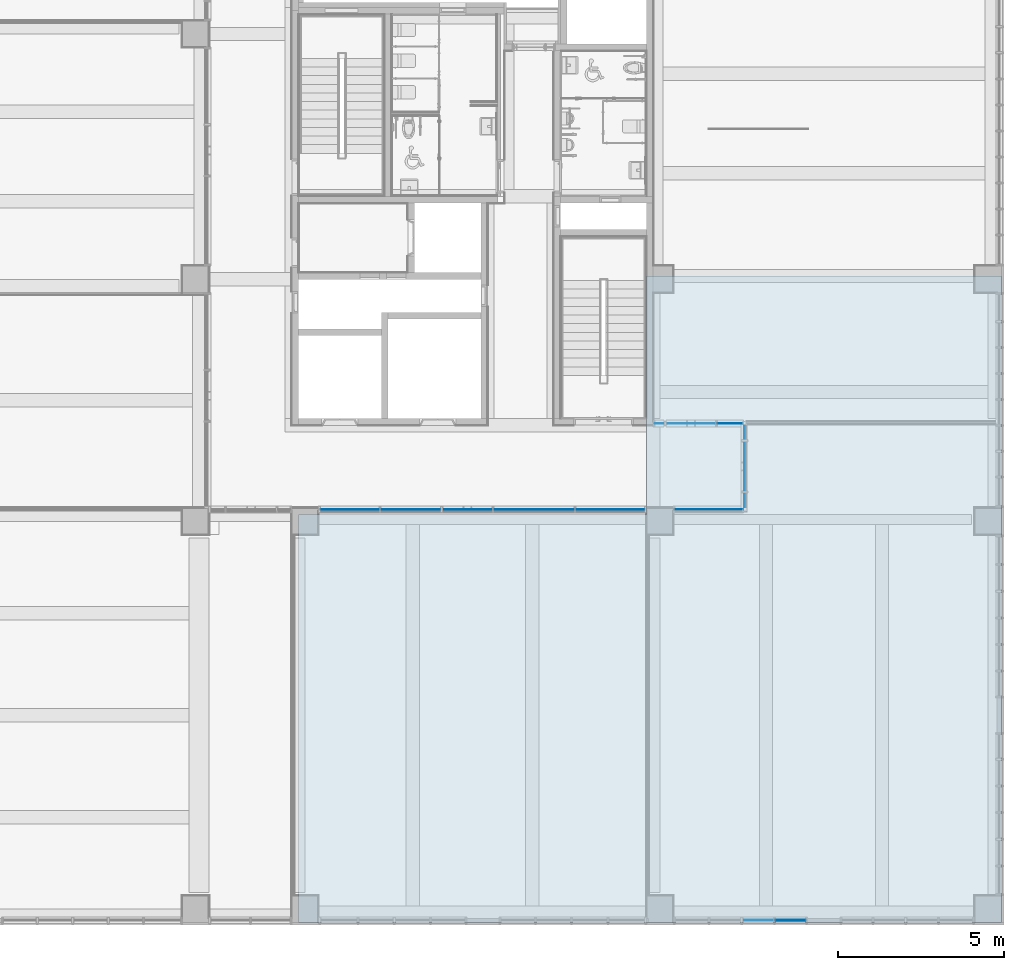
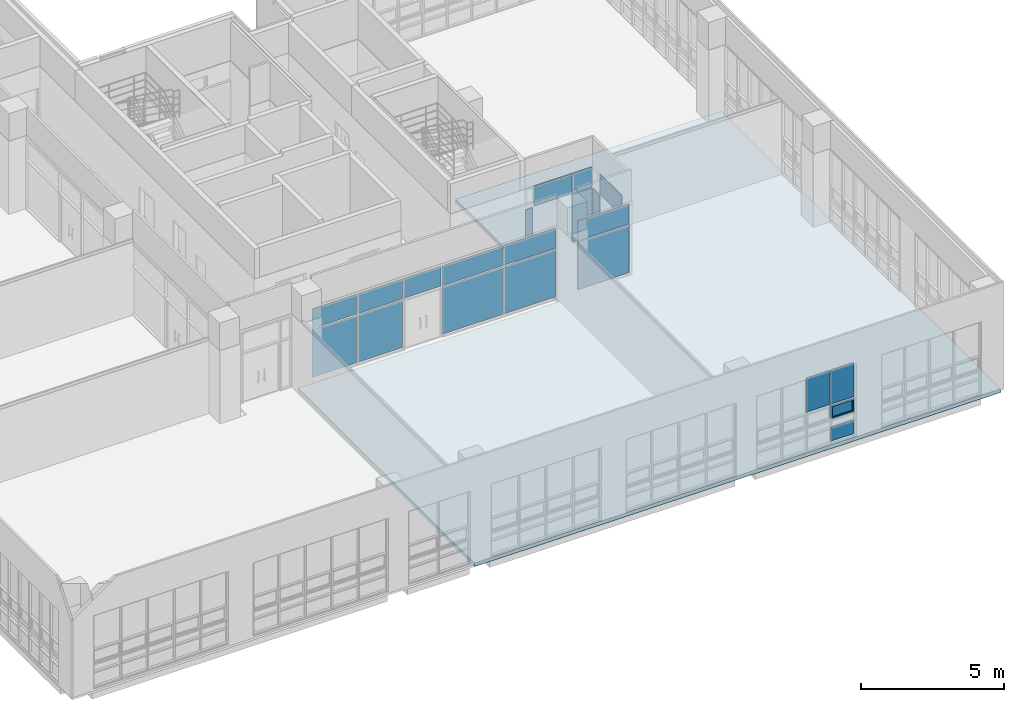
# One storey, part 33 of 74: 22 plates, 1 slab, 5 elements without a shape of their own.
"""IFC2X3 building model written with IfcOpenShell, lengths in millimetres."""

from ifc_helpers import new_model, entity, si_unit, converted_unit, derived_unit, direction, frame, origin, origin_2d_with_axis, place, context, subcontext, project, spatial, polyline, rectangle, outline, extrude, source, transform, mapped, material, material_list, layer, layer_set, layer_usage, type_object, type_shapes, element, aggregate, save


model = new_model("IFC2X3")

# Units and contexts
model_context = context("Model", 3, precision=0.01, world=origin(), true_north=direction((6.123031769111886e-17, 1.0)))
body_context = subcontext(model_context, "Body", "Model", "MODEL_VIEW")
ifc_project = project(units=[si_unit("LENGTHUNIT", "METRE", prefix="MILLI"), si_unit("AREAUNIT", "SQUARE_METRE"), si_unit("VOLUMEUNIT", "CUBIC_METRE"), converted_unit("PLANEANGLEUNIT", "DEGREE", entity("IfcRatioMeasure", 0.017453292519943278), si_unit("PLANEANGLEUNIT", "RADIAN"), dimensions=[0, 0, 0, 0, 0, 0, 0]), si_unit("MASSUNIT", "GRAM", prefix="KILO"), derived_unit("MASSDENSITYUNIT", [(si_unit("MASSUNIT", "GRAM", prefix="KILO"), 1), (si_unit("LENGTHUNIT", "METRE"), -3)]), derived_unit("MOMENTOFINERTIAUNIT", [(si_unit("LENGTHUNIT", "METRE"), 4)]), si_unit("TIMEUNIT", "SECOND"), si_unit("FREQUENCYUNIT", "HERTZ"), si_unit("THERMODYNAMICTEMPERATUREUNIT", "DEGREE_CELSIUS"), derived_unit("THERMALTRANSMITTANCEUNIT", [(si_unit("MASSUNIT", "GRAM", prefix="KILO"), 1), (si_unit("THERMODYNAMICTEMPERATUREUNIT", "KELVIN"), -1), (si_unit("TIMEUNIT", "SECOND"), -3)]), derived_unit("VOLUMETRICFLOWRATEUNIT", [(si_unit("LENGTHUNIT", "METRE"), 3), (si_unit("TIMEUNIT", "SECOND"), -1)]), derived_unit("MASSFLOWRATEUNIT", [(si_unit("MASSUNIT", "GRAM", prefix="KILO"), 1), (si_unit("TIMEUNIT", "SECOND"), -1)]), derived_unit("ROTATIONALFREQUENCYUNIT", [(si_unit("TIMEUNIT", "SECOND"), -1)]), si_unit("ELECTRICCURRENTUNIT", "AMPERE"), si_unit("ELECTRICVOLTAGEUNIT", "VOLT"), si_unit("POWERUNIT", "WATT"), si_unit("FORCEUNIT", "NEWTON", prefix="KILO"), si_unit("ILLUMINANCEUNIT", "LUX"), si_unit("LUMINOUSFLUXUNIT", "LUMEN"), si_unit("LUMINOUSINTENSITYUNIT", "CANDELA"), derived_unit("USERDEFINED", [(si_unit("MASSUNIT", "GRAM", prefix="KILO"), -1), (si_unit("LENGTHUNIT", "METRE"), -2), (si_unit("TIMEUNIT", "SECOND"), 3), (si_unit("LUMINOUSFLUXUNIT", "LUMEN"), 1)]), derived_unit("SOUNDPOWERUNIT", [(si_unit("MASSUNIT", "GRAM", prefix="KILO"), 1), (si_unit("LENGTHUNIT", "METRE"), 2), (si_unit("TIMEUNIT", "SECOND"), -3)]), derived_unit("SOUNDPRESSUREUNIT", [(si_unit("MASSUNIT", "GRAM", prefix="KILO"), 1), (si_unit("LENGTHUNIT", "METRE"), -1), (si_unit("TIMEUNIT", "SECOND"), -2)]), derived_unit("LINEARVELOCITYUNIT", [(si_unit("LENGTHUNIT", "METRE"), 1), (si_unit("TIMEUNIT", "SECOND"), -1)]), si_unit("PRESSUREUNIT", "PASCAL"), derived_unit("USERDEFINED", [(si_unit("LENGTHUNIT", "METRE"), -2), (si_unit("MASSUNIT", "GRAM", prefix="KILO"), 1), (si_unit("TIMEUNIT", "SECOND"), -2)]), derived_unit("LINEARFORCEUNIT", [(si_unit("MASSUNIT", "GRAM", prefix="KILO"), 1), (si_unit("LENGTHUNIT", "METRE"), 1), (si_unit("TIMEUNIT", "SECOND"), -2), (si_unit("LENGTHUNIT", "METRE"), -1)]), derived_unit("PLANARFORCEUNIT", [(si_unit("MASSUNIT", "GRAM", prefix="KILO"), 1), (si_unit("LENGTHUNIT", "METRE"), 1), (si_unit("TIMEUNIT", "SECOND"), -2), (si_unit("LENGTHUNIT", "METRE"), -2)])], contexts=[model_context])

# Site, building, storey
site_placement = place(None, frame((-14167.972527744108, -657.2125860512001, 0.0)))
site = spatial("IfcSite", under=ifc_project, at=site_placement, Name="Default", CompositionType="ELEMENT")
building_placement = place(site_placement, origin())
building = spatial("IfcBuilding", under=site, at=building_placement, Name="Sample Building", CompositionType="ELEMENT")
storey_placement = place(building_placement, frame((0.0, 0.0, 4800.0)))
storey = spatial("IfcBuildingStorey", under=building, at=storey_placement, Name="지상 2층", CompositionType="ELEMENT", Elevation=4800.000000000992)

# Slab
ifc_material_1 = material(Name="KBIMS-콘크리트")
ifc_layer = layer(ifc_material_1, 150.0)
ifc_layer_set = layer_set([ifc_layer], Name="바닥:SL111-철근콘크리트구조 바닥 150mm_S2")
ifc_layer_usage = layer_usage(ifc_layer_set, "AXIS3", "POSITIVE", 0.0)
slab_type = type_object("IfcSlabType", Name="바닥:SL111-철근콘크리트구조 바닥 150mm_S2", PredefinedType="FLOOR", material=ifc_layer_set)
slab_placement = place(storey_placement, origin())
element("IfcSlab", 1, at=slab_placement, inside=storey, type_object=slab_type, material=ifc_layer_usage, Name="바닥:SL111-철근콘크리트구조 바닥 150mm_S2", ObjectType="바닥:SL111-철근콘크리트구조 바닥 150mm_S2", PredefinedType="FLOOR", context=body_context, shape_type="SweptSolid", body=[
    extrude(outline(polyline([(-10600.000054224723, -10566.663779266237), (1700.000045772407, -10566.663779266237), (1700.000045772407, -66.6724722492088), (8900.0, -66.67247224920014), (8900.0, 10633.336251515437), (-10600.000054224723, 10633.33625151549), (-10600.000054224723, -10566.663779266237)])), frame((40834.627577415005, 11157.212249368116, 0.0), z_axis=(0.0, 0.0, -1.0), x_axis=(0.0, 1.0, 0.0)), (0.0, 0.0, 1.0), 150.0),
])

# Curtain wall, plates
curtain_wall_type = type_object("IfcCurtainWallType", Name="커튼월:CW112-스테인리스 스틸 커튼월", PredefinedType="NOTDEFINED")
curtain_wall_1_placement = place(storey_placement, frame((0.0, 0.0, -4800.0)))
curtain_wall_1 = element("IfcCurtainWall", 2, at=curtain_wall_1_placement, inside=storey, type_object=curtain_wall_type, Name="커튼월:CW112-스테인리스 스틸 커튼월", ObjectType="커튼월:CW112-스테인리스 스틸 커튼월")
ifc_material_2 = material(Name="KBIMS-로이유리(코팅)")
plate_type_1 = type_object("IfcPlateType", Name="CW300-THK24.Low-e coating glass:CW300-THK24.Low-e coating glass", PredefinedType="CURTAIN_PANEL", material=ifc_material_2)
shared_shape_1 = source(origin(), body_context, "Body", "SweptSolid", [
    extrude(rectangle(XDim=912.5000000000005, YDim=24.000000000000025, at=origin_2d_with_axis()), frame((0.0, 0.0, 0.0), z_axis=(0.0, 0.0, 1.0), x_axis=(-1.0, 0.0, 0.0)), (0.0, 0.0, 1.0), 575.0000000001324),
])
type_shapes(plate_type_1, [shared_shape_1])
plate_1_placement = place(curtain_wall_1_placement, frame((45105.82127232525, 619.7122951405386, 4930.0)))
plate_1 = element("IfcPlate", 3, at=plate_1_placement, type_object=plate_type_1, material=ifc_material_2, Name="CW300-THK24.Low-e coating glass:CW300-THK24.Low-e coating glass", ObjectType="CW300-THK24.Low-e coating glass:CW300-THK24.Low-e coating glass", context=body_context, shape_type="MappedRepresentation", body=[
    mapped(shared_shape_1, transform((0.0, 0.0, 0.0), scale=1.0)),
])
ifc_material_3 = material(Name="KBIMS-유리")
ifc_material_4 = material(Name="KBIMS-알루미늄")
ifc_material_list_1 = material_list([ifc_material_3, ifc_material_4])
ifc_material_list_2 = material_list([ifc_material_3, ifc_material_4])
plate_type_2 = type_object("IfcPlateType", Name="CW410-프로젝트 창:CW410-프로젝트 창 (하부개폐)", PredefinedType="CURTAIN_PANEL", material=ifc_material_list_2)
shared_shape_2 = source(origin(), body_context, "Body", "SweptSolid", [
    extrude(rectangle(XDim=812.5000000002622, YDim=23.999999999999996, at=origin_2d_with_axis()), frame((0.0, -0.04999999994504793, 50.0), z_axis=(0.0, 0.0, 1.0), x_axis=(-1.0, 0.0, 0.0)), (0.0, 0.0, 1.0), 450.00000000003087),
    extrude(outline(polyline([(-456.25000000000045, -275.0), (456.25000000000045, -275.0), (456.25000000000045, 275.0), (-456.25000000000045, 275.0), (-456.25000000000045, -275.0)]), holes=[polyline([(-406.2500000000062, -225.0), (-406.25000000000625, 225.0), (406.2500000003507, 225.0), (406.2500000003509, -225.0), (-406.2500000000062, -225.0)])]), frame((0.0, -50.04999999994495, 275.0), z_axis=(0.0, 1.0, 0.0), x_axis=(1.0, 0.0, 0.0)), (0.0, 0.0, 1.0), 99.99999999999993),
])
type_shapes(plate_type_2, [shared_shape_2])
plate_2_placement = place(curtain_wall_1_placement, frame((45105.82127232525, 619.7122951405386, 5905.0)))
plate_2 = element("IfcPlate", 4, at=plate_2_placement, type_object=plate_type_2, material=ifc_material_list_1, Name="CW410-프로젝트 창:CW410-프로젝트 창 (하부개폐)", ObjectType="CW410-프로젝트 창:CW410-프로젝트 창 (하부개폐)", context=body_context, shape_type="MappedRepresentation", body=[
    mapped(shared_shape_2, transform((0.0, 0.0, 0.0), scale=1.0)),
])
plate_type_3 = type_object("IfcPlateType", Name="CW300-THK24.Low-e coating glass:CW300-THK24.Low-e coating glass", PredefinedType="CURTAIN_PANEL", material=ifc_material_2)
shared_shape_3 = source(origin(), body_context, "Body", "SweptSolid", [
    extrude(rectangle(XDim=937.4999999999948, YDim=24.000000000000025, at=origin_2d_with_axis()), frame((0.0, 0.0, 0.0), z_axis=(0.0, 0.0, 1.0), x_axis=(-1.0, 0.0, 0.0)), (0.0, 0.0, 1.0), 1445.0000000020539),
])
type_shapes(plate_type_3, [shared_shape_3])
plate_3_placement = place(curtain_wall_1_placement, frame((44130.82127232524, 619.7122951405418, 6505.0)))
plate_3 = element("IfcPlate", 5, at=plate_3_placement, type_object=plate_type_3, material=ifc_material_2, Name="CW300-THK24.Low-e coating glass:CW300-THK24.Low-e coating glass", ObjectType="CW300-THK24.Low-e coating glass:CW300-THK24.Low-e coating glass", context=body_context, shape_type="MappedRepresentation", body=[
    mapped(shared_shape_3, transform((0.0, 0.0, 0.0), scale=1.0)),
])
plate_type_4 = type_object("IfcPlateType", Name="CW300-THK24.Low-e coating glass:CW300-THK24.Low-e coating glass", PredefinedType="CURTAIN_PANEL", material=ifc_material_2)
shared_shape_4 = source(origin(), body_context, "Body", "SweptSolid", [
    extrude(rectangle(XDim=912.5000000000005, YDim=24.000000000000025, at=origin_2d_with_axis()), frame((0.0, 0.0, 0.0), z_axis=(0.0, 0.0, 1.0), x_axis=(-1.0, 0.0, 0.0)), (0.0, 0.0, 1.0), 1445.0000000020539),
])
type_shapes(plate_type_4, [shared_shape_4])
plate_4_placement = place(curtain_wall_1_placement, frame((45105.82127232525, 619.7122951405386, 6505.0)))
plate_4 = element("IfcPlate", 6, at=plate_4_placement, type_object=plate_type_4, material=ifc_material_2, Name="CW300-THK24.Low-e coating glass:CW300-THK24.Low-e coating glass", ObjectType="CW300-THK24.Low-e coating glass:CW300-THK24.Low-e coating glass", context=body_context, shape_type="MappedRepresentation", body=[
    mapped(shared_shape_4, transform((0.0, 0.0, 0.0), scale=1.0)),
])
aggregate(curtain_wall_1, [plate_1, plate_2, plate_3, plate_4])

# Curtain wall, plate
curtain_wall_2_placement = place(storey_placement, frame((0.0, 0.0, -4800.0)))
curtain_wall_2 = element("IfcCurtainWall", 7, at=curtain_wall_2_placement, inside=storey, type_object=curtain_wall_type, Name="커튼월:CW112-스테인리스 스틸 커튼월", ObjectType="커튼월:CW112-스테인리스 스틸 커튼월")
plate_type_5 = type_object("IfcPlateType", Name="CW300-THK24.Low-e coating glass:CW300-THK24.Low-e coating glass", PredefinedType="CURTAIN_PANEL", material=ifc_material_2)
shared_shape_5 = source(origin(), body_context, "Body", "SweptSolid", [
    extrude(rectangle(XDim=1500.0000000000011, YDim=24.000000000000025, at=origin_2d_with_axis()), frame((0.0, 0.0, 0.0), z_axis=(0.0, 0.0, 1.0), x_axis=(-1.0, 0.0, 0.0)), (0.0, 0.0, 1.0), 845.0000000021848),
])
type_shapes(plate_type_5, [shared_shape_5])
plate_5_placement = place(curtain_wall_2_placement, frame((35362.97249113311, 13012.21230798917, 7005.0)))
plate_5 = element("IfcPlate", 8, at=plate_5_placement, type_object=plate_type_5, material=ifc_material_2, Name="CW300-THK24.Low-e coating glass:CW300-THK24.Low-e coating glass", ObjectType="CW300-THK24.Low-e coating glass:CW300-THK24.Low-e coating glass", context=body_context, shape_type="MappedRepresentation", body=[
    mapped(shared_shape_5, transform((0.0, 0.0, 0.0), scale=1.0)),
])

curtain_wall_3_placement = place(storey_placement, frame((0.0, 0.0, -4800.0)))
curtain_wall_3 = element("IfcCurtainWall", 9, at=curtain_wall_3_placement, inside=storey, type_object=curtain_wall_type, Name="커튼월:CW112-스테인리스 스틸 커튼월", ObjectType="커튼월:CW112-스테인리스 스틸 커튼월")
plate_6_placement = place(curtain_wall_3_placement, frame((43717.972491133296, 14312.177678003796, 7005.0), z_axis=(0.0, 0.0, 1.0), x_axis=(0.0, 1.0, 0.0)))
plate_6 = element("IfcPlate", 10, at=plate_6_placement, type_object=plate_type_5, material=ifc_material_2, Name="CW300-THK24.Low-e coating glass:CW300-THK24.Low-e coating glass", ObjectType="CW300-THK24.Low-e coating glass:CW300-THK24.Low-e coating glass", context=body_context, shape_type="MappedRepresentation", body=[
    mapped(shared_shape_5, transform((0.0, 0.0, 0.0), scale=1.0)),
])

# Plate
plate_type_6 = type_object("IfcPlateType", Name="CW300-THK24.Low-e coating glass:CW300-THK24.Low-e coating glass", PredefinedType="CURTAIN_PANEL", material=ifc_material_2)
shared_shape_6 = source(origin(), body_context, "Body", "SweptSolid", [
    extrude(rectangle(XDim=1785.0000000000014, YDim=24.000000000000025, at=origin_2d_with_axis()), frame((0.0, 0.0, 0.0), z_axis=(0.0, 0.0, 1.0), x_axis=(-1.0, 0.0, 0.0)), (0.0, 0.0, 1.0), 2024.9999999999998),
])
type_shapes(plate_type_6, [shared_shape_6])
plate_7_placement = place(curtain_wall_2_placement, frame((31810.47249113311, 13012.21230798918, 4930.0)))
plate_7 = element("IfcPlate", 11, at=plate_7_placement, type_object=plate_type_6, material=ifc_material_2, Name="CW300-THK24.Low-e coating glass:CW300-THK24.Low-e coating glass", ObjectType="CW300-THK24.Low-e coating glass:CW300-THK24.Low-e coating glass", context=body_context, shape_type="MappedRepresentation", body=[
    mapped(shared_shape_6, transform((0.0, 0.0, 0.0), scale=1.0)),
])

plate_type_7 = type_object("IfcPlateType", Name="CW300-THK24.Low-e coating glass:CW300-THK24.Low-e coating glass", PredefinedType="CURTAIN_PANEL", material=ifc_material_2)
shared_shape_7 = source(origin(), body_context, "Body", "SweptSolid", [
    extrude(rectangle(XDim=1810.0000000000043, YDim=24.000000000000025, at=origin_2d_with_axis()), frame((0.0, 0.0, 0.0), z_axis=(0.0, 0.0, 1.0), x_axis=(-1.0, 0.0, 0.0)), (0.0, 0.0, 1.0), 2024.9999999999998),
])
type_shapes(plate_type_7, [shared_shape_7])
plate_8_placement = place(curtain_wall_2_placement, frame((33657.972491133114, 13012.212307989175, 4930.0)))
plate_8 = element("IfcPlate", 12, at=plate_8_placement, type_object=plate_type_7, material=ifc_material_2, Name="CW300-THK24.Low-e coating glass:CW300-THK24.Low-e coating glass", ObjectType="CW300-THK24.Low-e coating glass:CW300-THK24.Low-e coating glass", context=body_context, shape_type="MappedRepresentation", body=[
    mapped(shared_shape_7, transform((0.0, 0.0, 0.0), scale=1.0)),
])

plate_type_8 = type_object("IfcPlateType", Name="CW300-THK24.Low-e coating glass:CW300-THK24.Low-e coating glass", PredefinedType="CURTAIN_PANEL", material=ifc_material_2)
shared_shape_8 = source(origin(), body_context, "Body", "SweptSolid", [
    extrude(rectangle(XDim=2420.000000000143, YDim=24.000000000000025, at=origin_2d_with_axis()), frame((0.0, 0.0, 0.0), z_axis=(0.0, 0.0, 1.0), x_axis=(-1.0, 0.0, 0.0)), (0.0, 0.0, 1.0), 2024.9999999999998),
])
type_shapes(plate_type_8, [shared_shape_8])
plate_9_placement = place(curtain_wall_2_placement, frame((37372.97249113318, 13012.212307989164, 4930.0)))
plate_9 = element("IfcPlate", 13, at=plate_9_placement, type_object=plate_type_8, material=ifc_material_2, Name="CW300-THK24.Low-e coating glass:CW300-THK24.Low-e coating glass", ObjectType="CW300-THK24.Low-e coating glass:CW300-THK24.Low-e coating glass", context=body_context, shape_type="MappedRepresentation", body=[
    mapped(shared_shape_8, transform((0.0, 0.0, 0.0), scale=1.0)),
])

plate_type_9 = type_object("IfcPlateType", Name="CW300-THK24.Low-e coating glass:CW300-THK24.Low-e coating glass", PredefinedType="CURTAIN_PANEL", material=ifc_material_2)
shared_shape_9 = source(origin(), body_context, "Body", "SweptSolid", [
    extrude(rectangle(XDim=2084.9999999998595, YDim=24.000000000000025, at=origin_2d_with_axis()), frame((0.0, 0.0, 0.0), z_axis=(0.0, 0.0, 1.0), x_axis=(-1.0, 0.0, 0.0)), (0.0, 0.0, 1.0), 2024.9999999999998),
])
type_shapes(plate_type_9, [shared_shape_9])
plate_10_placement = place(curtain_wall_2_placement, frame((39675.47249113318, 13012.212307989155, 4930.0)))
plate_10 = element("IfcPlate", 14, at=plate_10_placement, type_object=plate_type_9, material=ifc_material_2, Name="CW300-THK24.Low-e coating glass:CW300-THK24.Low-e coating glass", ObjectType="CW300-THK24.Low-e coating glass:CW300-THK24.Low-e coating glass", context=body_context, shape_type="MappedRepresentation", body=[
    mapped(shared_shape_9, transform((0.0, 0.0, 0.0), scale=1.0)),
])

plate_type_10 = type_object("IfcPlateType", Name="CW300-THK24.Low-e coating glass:CW300-THK24.Low-e coating glass", PredefinedType="CURTAIN_PANEL", material=ifc_material_2)
shared_shape_10 = source(origin(), body_context, "Body", "SweptSolid", [
    extrude(rectangle(XDim=1785.0000000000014, YDim=24.000000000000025, at=origin_2d_with_axis()), frame((0.0, 0.0, 0.0), z_axis=(0.0, 0.0, 1.0), x_axis=(-1.0, 0.0, 0.0)), (0.0, 0.0, 1.0), 845.0000000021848),
])
type_shapes(plate_type_10, [shared_shape_10])
plate_11_placement = place(curtain_wall_2_placement, frame((31810.47249113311, 13012.21230798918, 7005.0)))
plate_11 = element("IfcPlate", 15, at=plate_11_placement, type_object=plate_type_10, material=ifc_material_2, Name="CW300-THK24.Low-e coating glass:CW300-THK24.Low-e coating glass", ObjectType="CW300-THK24.Low-e coating glass:CW300-THK24.Low-e coating glass", context=body_context, shape_type="MappedRepresentation", body=[
    mapped(shared_shape_10, transform((0.0, 0.0, 0.0), scale=1.0)),
])

plate_type_11 = type_object("IfcPlateType", Name="CW300-THK24.Low-e coating glass:CW300-THK24.Low-e coating glass", PredefinedType="CURTAIN_PANEL", material=ifc_material_2)
shared_shape_11 = source(origin(), body_context, "Body", "SweptSolid", [
    extrude(rectangle(XDim=1810.0, YDim=24.000000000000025, at=origin_2d_with_axis()), frame((0.0, 0.0, 0.0), z_axis=(0.0, 0.0, 1.0), x_axis=(-1.0, 0.0, 0.0)), (0.0, 0.0, 1.0), 845.0000000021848),
])
type_shapes(plate_type_11, [shared_shape_11])
plate_12_placement = place(curtain_wall_2_placement, frame((33657.972491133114, 13012.212307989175, 7005.0)))
plate_12 = element("IfcPlate", 16, at=plate_12_placement, type_object=plate_type_11, material=ifc_material_2, Name="CW300-THK24.Low-e coating glass:CW300-THK24.Low-e coating glass", ObjectType="CW300-THK24.Low-e coating glass:CW300-THK24.Low-e coating glass", context=body_context, shape_type="MappedRepresentation", body=[
    mapped(shared_shape_11, transform((0.0, 0.0, 0.0), scale=1.0)),
])

plate_type_12 = type_object("IfcPlateType", Name="CW300-THK24.Low-e coating glass:CW300-THK24.Low-e coating glass", PredefinedType="CURTAIN_PANEL", material=ifc_material_2)
shared_shape_12 = source(origin(), body_context, "Body", "SweptSolid", [
    extrude(rectangle(XDim=2420.000000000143, YDim=24.000000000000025, at=origin_2d_with_axis()), frame((0.0, 0.0, 0.0), z_axis=(0.0, 0.0, 1.0), x_axis=(-1.0, 0.0, 0.0)), (0.0, 0.0, 1.0), 845.0000000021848),
])
type_shapes(plate_type_12, [shared_shape_12])
plate_13_placement = place(curtain_wall_2_placement, frame((37372.97249113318, 13012.212307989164, 7005.0)))
plate_13 = element("IfcPlate", 17, at=plate_13_placement, type_object=plate_type_12, material=ifc_material_2, Name="CW300-THK24.Low-e coating glass:CW300-THK24.Low-e coating glass", ObjectType="CW300-THK24.Low-e coating glass:CW300-THK24.Low-e coating glass", context=body_context, shape_type="MappedRepresentation", body=[
    mapped(shared_shape_12, transform((0.0, 0.0, 0.0), scale=1.0)),
])

plate_type_13 = type_object("IfcPlateType", Name="CW300-THK24.Low-e coating glass:CW300-THK24.Low-e coating glass", PredefinedType="CURTAIN_PANEL", material=ifc_material_2)
shared_shape_13 = source(origin(), body_context, "Body", "SweptSolid", [
    extrude(rectangle(XDim=2084.9999999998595, YDim=24.000000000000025, at=origin_2d_with_axis()), frame((0.0, 0.0, 0.0), z_axis=(0.0, 0.0, 1.0), x_axis=(-1.0, 0.0, 0.0)), (0.0, 0.0, 1.0), 845.0000000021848),
])
type_shapes(plate_type_13, [shared_shape_13])
plate_14_placement = place(curtain_wall_2_placement, frame((39675.47249113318, 13012.212307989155, 7005.0)))
plate_14 = element("IfcPlate", 18, at=plate_14_placement, type_object=plate_type_13, material=ifc_material_2, Name="CW300-THK24.Low-e coating glass:CW300-THK24.Low-e coating glass", ObjectType="CW300-THK24.Low-e coating glass:CW300-THK24.Low-e coating glass", context=body_context, shape_type="MappedRepresentation", body=[
    mapped(shared_shape_13, transform((0.0, 0.0, 0.0), scale=1.0)),
])

aggregate(curtain_wall_2, [plate_7, plate_8, plate_9, plate_10, plate_11, plate_12, plate_5, plate_13, plate_14])

# Curtain wall, plates
curtain_wall_4_placement = place(storey_placement, frame((0.0, 0.0, -4800.0)))
curtain_wall_4 = element("IfcCurtainWall", 19, at=curtain_wall_4_placement, inside=storey, type_object=curtain_wall_type, Name="커튼월:CW112-스테인리스 스틸 커튼월", ObjectType="커튼월:CW112-스테인리스 스틸 커튼월")
plate_type_14 = type_object("IfcPlateType", Name="CW300-THK24.Low-e coating glass:CW300-THK24.Low-e coating glass", PredefinedType="CURTAIN_PANEL", material=ifc_material_2)
shared_shape_14 = source(origin(), body_context, "Body", "SweptSolid", [
    extrude(rectangle(XDim=2067.9999999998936, YDim=24.000000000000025, at=origin_2d_with_axis()), frame((0.0, 0.0, 0.0), z_axis=(0.0, 0.0, 1.0), x_axis=(-1.0, 0.0, 0.0)), (0.0, 0.0, 1.0), 2024.9999999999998),
])
type_shapes(plate_type_14, [shared_shape_14])
plate_15_placement = place(curtain_wall_4_placement, frame((42651.97249113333, 13012.194878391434, 4930.0)))
plate_15 = element("IfcPlate", 20, at=plate_15_placement, type_object=plate_type_14, material=ifc_material_2, Name="CW300-THK24.Low-e coating glass:CW300-THK24.Low-e coating glass", ObjectType="CW300-THK24.Low-e coating glass:CW300-THK24.Low-e coating glass", context=body_context, shape_type="MappedRepresentation", body=[
    mapped(shared_shape_14, transform((0.0, 0.0, 0.0), scale=1.0)),
])
plate_type_15 = type_object("IfcPlateType", Name="CW300-THK24.Low-e coating glass:CW300-THK24.Low-e coating glass", PredefinedType="CURTAIN_PANEL", material=ifc_material_2)
shared_shape_15 = source(origin(), body_context, "Body", "SweptSolid", [
    extrude(rectangle(XDim=2067.9999999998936, YDim=24.000000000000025, at=origin_2d_with_axis()), frame((0.0, 0.0, 0.0), z_axis=(0.0, 0.0, 1.0), x_axis=(-1.0, 0.0, 0.0)), (0.0, 0.0, 1.0), 845.0000000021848),
])
type_shapes(plate_type_15, [shared_shape_15])
plate_16_placement = place(curtain_wall_4_placement, frame((42651.97249113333, 13012.194878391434, 7005.0)))
plate_16 = element("IfcPlate", 21, at=plate_16_placement, type_object=plate_type_15, material=ifc_material_2, Name="CW300-THK24.Low-e coating glass:CW300-THK24.Low-e coating glass", ObjectType="CW300-THK24.Low-e coating glass:CW300-THK24.Low-e coating glass", context=body_context, shape_type="MappedRepresentation", body=[
    mapped(shared_shape_15, transform((0.0, 0.0, 0.0), scale=1.0)),
])
aggregate(curtain_wall_4, [plate_15, plate_16])

# Plate
plate_type_16 = type_object("IfcPlateType", Name="CW300-THK24.Low-e coating glass:CW300-THK24.Low-e coating glass", PredefinedType="CURTAIN_PANEL", material=ifc_material_2)
shared_shape_16 = source(origin(), body_context, "Body", "SweptSolid", [
    extrude(rectangle(XDim=462.98279961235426, YDim=24.000000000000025, at=origin_2d_with_axis()), frame((0.0, 0.0, 0.0), z_axis=(0.0, 0.0, 1.0), x_axis=(-1.0, 0.0, 0.0)), (0.0, 0.0, 1.0), 2024.9999999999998),
])
type_shapes(plate_type_16, [shared_shape_16])
plate_17_placement = place(curtain_wall_3_placement, frame((43717.972491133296, 13280.686278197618, 4930.0), z_axis=(0.0, 0.0, 1.0), x_axis=(0.0, 1.0, 0.0)))
plate_17 = element("IfcPlate", 22, at=plate_17_placement, type_object=plate_type_16, material=ifc_material_2, Name="CW300-THK24.Low-e coating glass:CW300-THK24.Low-e coating glass", ObjectType="CW300-THK24.Low-e coating glass:CW300-THK24.Low-e coating glass", context=body_context, shape_type="MappedRepresentation", body=[
    mapped(shared_shape_16, transform((0.0, 0.0, 0.0), scale=1.0)),
])

plate_type_17 = type_object("IfcPlateType", Name="CW300-THK24.Low-e coating glass:CW300-THK24.Low-e coating glass", PredefinedType="CURTAIN_PANEL", material=ifc_material_2)
shared_shape_17 = source(origin(), body_context, "Body", "SweptSolid", [
    extrude(rectangle(XDim=457.99999999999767, YDim=24.000000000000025, at=origin_2d_with_axis()), frame((0.0, 0.0, 0.0), z_axis=(0.0, 0.0, 1.0), x_axis=(-1.0, 0.0, 0.0)), (0.0, 0.0, 1.0), 2024.9999999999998),
])
type_shapes(plate_type_17, [shared_shape_17])
plate_18_placement = place(curtain_wall_3_placement, frame((43717.972491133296, 15341.177678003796, 4930.0), z_axis=(0.0, 0.0, 1.0), x_axis=(0.0, 1.0, 0.0)))
plate_18 = element("IfcPlate", 23, at=plate_18_placement, type_object=plate_type_17, material=ifc_material_2, Name="CW300-THK24.Low-e coating glass:CW300-THK24.Low-e coating glass", ObjectType="CW300-THK24.Low-e coating glass:CW300-THK24.Low-e coating glass", context=body_context, shape_type="MappedRepresentation", body=[
    mapped(shared_shape_17, transform((0.0, 0.0, 0.0), scale=1.0)),
])

aggregate(curtain_wall_3, [plate_17, plate_18, plate_6])

# Curtain wall, plates
curtain_wall_5_placement = place(storey_placement, frame((0.0, 0.0, -4800.0)))
curtain_wall_5 = element("IfcCurtainWall", 24, at=curtain_wall_5_placement, inside=storey, type_object=curtain_wall_type, Name="커튼월:CW112-스테인리스 스틸 커튼월", ObjectType="커튼월:CW112-스테인리스 스틸 커튼월")
plate_type_18 = type_object("IfcPlateType", Name="CW300-THK24.Low-e coating glass:CW300-THK24.Low-e coating glass", PredefinedType="CURTAIN_PANEL", material=ifc_material_2)
shared_shape_18 = source(origin(), body_context, "Body", "SweptSolid", [
    extrude(rectangle(XDim=24.000000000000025, YDim=782.999999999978, at=origin_2d_with_axis()), frame((0.0, 0.0, 0.0), z_axis=(0.0, 0.0, 1.0), x_axis=(0.0, 1.0, 0.0)), (0.0, 0.0, 1.0), 2024.9999999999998),
])
type_shapes(plate_type_18, [shared_shape_18])
plate_19_placement = place(curtain_wall_5_placement, frame((43294.47249113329, 15607.177678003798, 4930.0), z_axis=(0.0, 0.0, 1.0), x_axis=(-1.0, 0.0, 0.0)))
plate_19 = element("IfcPlate", 25, at=plate_19_placement, type_object=plate_type_18, material=ifc_material_2, Name="CW300-THK24.Low-e coating glass:CW300-THK24.Low-e coating glass", ObjectType="CW300-THK24.Low-e coating glass:CW300-THK24.Low-e coating glass", context=body_context, shape_type="MappedRepresentation", body=[
    mapped(shared_shape_18, transform((0.0, 0.0, 0.0), scale=1.0)),
])
plate_type_19 = type_object("IfcPlateType", Name="CW300-THK24.Low-e coating glass:CW300-THK24.Low-e coating glass", PredefinedType="CURTAIN_PANEL", material=ifc_material_2)
shared_shape_19 = source(origin(), body_context, "Body", "SweptSolid", [
    extrude(rectangle(XDim=24.000000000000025, YDim=280.0086929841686, at=origin_2d_with_axis()), frame((0.0, 0.0, 0.0), z_axis=(0.0, 0.0, 1.0), x_axis=(0.0, 1.0, 0.0)), (0.0, 0.0, 1.0), 2075.0000000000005),
])
type_shapes(plate_type_19, [shared_shape_19])
plate_20_placement = place(curtain_wall_5_placement, frame((41157.968144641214, 15607.177678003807, 4880.0), z_axis=(0.0, 0.0, 1.0), x_axis=(-1.0, 0.0, 0.0)))
plate_20 = element("IfcPlate", 26, at=plate_20_placement, type_object=plate_type_19, material=ifc_material_2, Name="CW300-THK24.Low-e coating glass:CW300-THK24.Low-e coating glass", ObjectType="CW300-THK24.Low-e coating glass:CW300-THK24.Low-e coating glass", context=body_context, shape_type="MappedRepresentation", body=[
    mapped(shared_shape_19, transform((0.0, 0.0, 0.0), scale=1.0)),
])
plate_type_20 = type_object("IfcPlateType", Name="CW300-THK24.Low-e coating glass:CW300-THK24.Low-e coating glass", PredefinedType="CURTAIN_PANEL", material=ifc_material_2)
shared_shape_20 = source(origin(), body_context, "Body", "SweptSolid", [
    extrude(rectangle(XDim=24.000000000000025, YDim=782.999999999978, at=origin_2d_with_axis()), frame((0.0, 0.0, 0.0), z_axis=(0.0, 0.0, 1.0), x_axis=(0.0, 1.0, 0.0)), (0.0, 0.0, 1.0), 845.0000000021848),
])
type_shapes(plate_type_20, [shared_shape_20])
plate_21_placement = place(curtain_wall_5_placement, frame((43294.47249113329, 15607.177678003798, 7005.0), z_axis=(0.0, 0.0, 1.0), x_axis=(-1.0, 0.0, 0.0)))
plate_21 = element("IfcPlate", 27, at=plate_21_placement, type_object=plate_type_20, material=ifc_material_2, Name="CW300-THK24.Low-e coating glass:CW300-THK24.Low-e coating glass", ObjectType="CW300-THK24.Low-e coating glass:CW300-THK24.Low-e coating glass", context=body_context, shape_type="MappedRepresentation", body=[
    mapped(shared_shape_20, transform((0.0, 0.0, 0.0), scale=1.0)),
])
plate_type_21 = type_object("IfcPlateType", Name="CW300-THK24.Low-e coating glass:CW300-THK24.Low-e coating glass", PredefinedType="CURTAIN_PANEL", material=ifc_material_2)
shared_shape_21 = source(origin(), body_context, "Body", "SweptSolid", [
    extrude(rectangle(XDim=24.000000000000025, YDim=1494.999999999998, at=origin_2d_with_axis()), frame((0.0, 0.0, 0.0), z_axis=(0.0, 0.0, 1.0), x_axis=(0.0, 1.0, 0.0)), (0.0, 0.0, 1.0), 845.0000000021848),
])
type_shapes(plate_type_21, [shared_shape_21])
plate_22_placement = place(curtain_wall_5_placement, frame((42105.47249113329, 15607.177678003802, 7005.0), z_axis=(0.0, 0.0, 1.0), x_axis=(-1.0, 0.0, 0.0)))
plate_22 = element("IfcPlate", 28, at=plate_22_placement, type_object=plate_type_21, material=ifc_material_2, Name="CW300-THK24.Low-e coating glass:CW300-THK24.Low-e coating glass", ObjectType="CW300-THK24.Low-e coating glass:CW300-THK24.Low-e coating glass", context=body_context, shape_type="MappedRepresentation", body=[
    mapped(shared_shape_21, transform((0.0, 0.0, 0.0), scale=1.0)),
])
aggregate(curtain_wall_5, [plate_19, plate_20, plate_21, plate_22])

save(model, "model.ifc")
